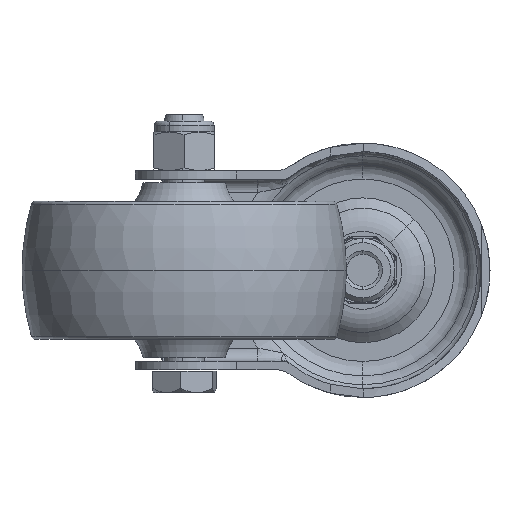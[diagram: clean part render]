
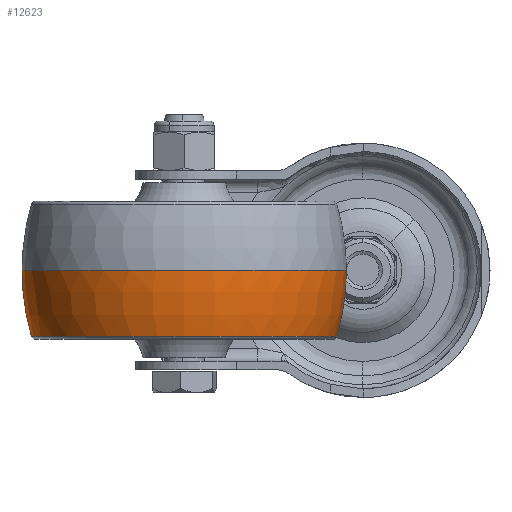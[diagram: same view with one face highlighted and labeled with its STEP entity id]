
A CAD part, front view. The second image highlights one B-rep face of the part: STEP entity #12623.
In plain terms, the highlighted toroidal (fillet/blend) face has major radius 17.269 mm and minor radius 54.769 mm.
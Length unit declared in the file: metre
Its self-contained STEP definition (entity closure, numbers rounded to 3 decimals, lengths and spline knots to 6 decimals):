
#481 = TOROIDAL_SURFACE ( 'NONE', #13162, -0.017269, 0.054769 ) ;
#1288 = DIRECTION ( 'NONE',  ( 0., 0., -1. ) ) ;
#1500 = VERTEX_POINT ( 'NONE', #9005 ) ;
#2231 = DIRECTION ( 'NONE',  ( 0., 0., 1. ) ) ;
#3210 = VERTEX_POINT ( 'NONE', #12062 ) ;
#4073 = DIRECTION ( 'NONE',  ( 1., 0., 0. ) ) ;
#4480 = CARTESIAN_POINT ( 'NONE',  ( -0.0038, -0.071426, 0. ) ) ;
#5309 = CIRCLE ( 'NONE', #7323, 0.0375 ) ;
#5436 = DIRECTION ( 'NONE',  ( 1., 0., 0. ) ) ;
#5913 = VERTEX_POINT ( 'NONE', #8250 ) ;
#6302 = DIRECTION ( 'NONE',  ( 1., 0., 0. ) ) ;
#6737 = AXIS2_PLACEMENT_3D ( 'NONE', #12775, #8523, #6302 ) ;
#6963 = EDGE_CURVE ( 'NONE', #3210, #5913, #11877, .T. ) ;
#7323 = AXIS2_PLACEMENT_3D ( 'NONE', #11825, #2231, #4073 ) ;
#7406 = CIRCLE ( 'NONE', #6737, 0.054769 ) ;
#7444 = DIRECTION ( 'NONE',  ( 0., 1., 0. ) ) ;
#7595 = CARTESIAN_POINT ( 'NONE',  ( -0.0413, -0.071426, 0.000102 ) ) ;
#7691 = ORIENTED_EDGE ( 'NONE', *, *, #9713, .F. ) ;
#7784 = ORIENTED_EDGE ( 'NONE', *, *, #6963, .T. ) ;
#8250 = CARTESIAN_POINT ( 'NONE',  ( -0.00599, -0.071426, -0.01523 ) ) ;
#8262 = ORIENTED_EDGE ( 'NONE', *, *, #8519, .T. ) ;
#8479 = DIRECTION ( 'NONE',  ( 0., 0., 1. ) ) ;
#8519 = EDGE_CURVE ( 'NONE', #1500, #3210, #7406, .T. ) ;
#8523 = DIRECTION ( 'NONE',  ( 0., -1., 0. ) ) ;
#8647 = AXIS2_PLACEMENT_3D ( 'NONE', #9466, #7444, #8479 ) ;
#9005 = CARTESIAN_POINT ( 'NONE',  ( -0.0788, -0.071426, 0. ) ) ;
#9466 = CARTESIAN_POINT ( 'NONE',  ( -0.058569, -0.071426, 0.000102 ) ) ;
#9713 = EDGE_CURVE ( 'NONE', #13254, #5913, #11769, .T. ) ;
#10375 = EDGE_CURVE ( 'NONE', #1500, #13254, #5309, .T. ) ;
#11368 = CARTESIAN_POINT ( 'NONE',  ( -0.0413, -0.071426, -0.01523 ) ) ;
#11675 = ORIENTED_EDGE ( 'NONE', *, *, #10375, .F. ) ;
#11769 = CIRCLE ( 'NONE', #8647, 0.054769 ) ;
#11825 = CARTESIAN_POINT ( 'NONE',  ( -0.0413, -0.071426, 0. ) ) ;
#11877 = CIRCLE ( 'NONE', #13651, 0.03531 ) ;
#12062 = CARTESIAN_POINT ( 'NONE',  ( -0.07661, -0.071426, -0.01523 ) ) ;
#12184 = EDGE_LOOP ( 'NONE', ( #11675, #8262, #7784, #7691 ) ) ;
#12556 = DIRECTION ( 'NONE',  ( 1., 0., 0. ) ) ;
#12623 = ADVANCED_FACE ( 'NONE', ( #12814 ), #481, .T. ) ;
#12775 = CARTESIAN_POINT ( 'NONE',  ( -0.024031, -0.071426, 0.000102 ) ) ;
#12814 = FACE_OUTER_BOUND ( 'NONE', #12184, .T. ) ;
#13162 = AXIS2_PLACEMENT_3D ( 'NONE', #7595, #1288, #5436 ) ;
#13254 = VERTEX_POINT ( 'NONE', #4480 ) ;
#13589 = DIRECTION ( 'NONE',  ( 0., 0., 1. ) ) ;
#13651 = AXIS2_PLACEMENT_3D ( 'NONE', #11368, #13589, #12556 ) ;
